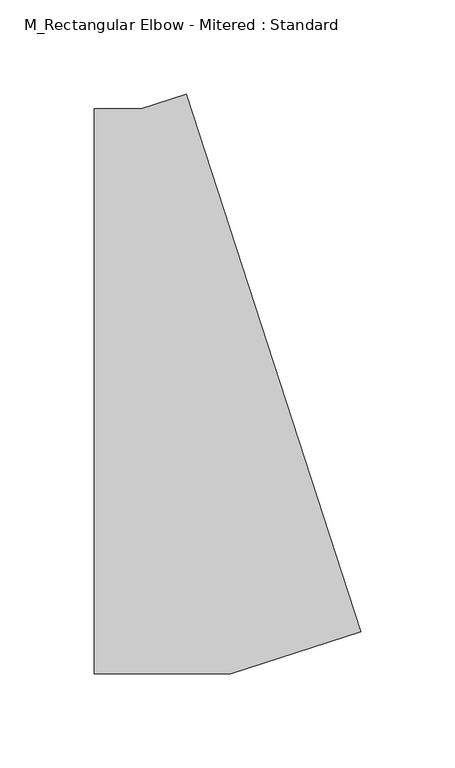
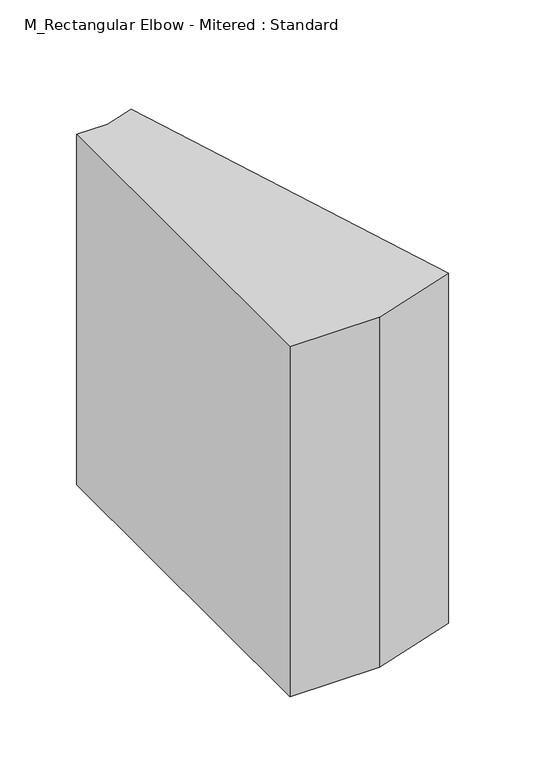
"""IFC4 building model written with IfcOpenShell, lengths in millimetres: duct fitting geometry, M_Rectangular Elbow - Mitered : Standard."""

from ifc_helpers import new_model, si_unit, frame, origin, place, context, project, spatial, polyline, outline, extrude, source, transform, mapped, element, save


def m_rectangular_elbow_mitered_standard_74561131(model_context):
    return source(origin(), model_context, "Body", "SweptSolid", [
        extrude(outline(polyline([(-48.757666, -150.0), (-48.757666, 150.0), (-23.757666, 150.0), (0.0187469, 157.7254249), (92.7238452, -127.59153), (23.757666, -150.0), (-48.757666, -150.0)])), frame((0.0, 0.0, -150.0), z_axis=(0.0, 0.0, 1.0), x_axis=(1.0, 0.0, 0.0)), (0.0, 0.0, 1.0), 300.0),
        extrude(outline(polyline([(-48.757666, -150.0), (-48.757666, 150.0), (-23.757666, 150.0), (0.0187469, 157.7254249), (92.7238452, -127.59153), (23.757666, -150.0), (-48.757666, -150.0)])), frame((0.0, 0.0, -150.0), z_axis=(0.0, 0.0, 1.0), x_axis=(1.0, 0.0, 0.0)), (0.0, 0.0, 1.0), 300.0),
        extrude(outline(polyline([(-48.757666, -150.0), (-48.757666, 150.0), (-23.757666, 150.0), (0.0187469, 157.7254249), (92.7238452, -127.59153), (23.757666, -150.0), (-48.757666, -150.0)])), frame((0.0, 0.0, -150.0), z_axis=(0.0, 0.0, 1.0), x_axis=(1.0, 0.0, 0.0)), (0.0, 0.0, 1.0), 300.0),
    ])


if __name__ == "__main__":
    model = new_model("IFC4")
    model_context = context("Model", 3, world=origin())
    ifc_project = project(units=[si_unit("LENGTHUNIT", "METRE", prefix="MILLI")], contexts=[model_context])
    site = spatial("IfcSite", under=ifc_project)
    building = spatial("IfcBuilding", under=site)
    placement = place(None, origin())
    m_rectangular_elbow_mitered_standard_shape = m_rectangular_elbow_mitered_standard_74561131(model_context)
    element("IfcDuctFitting", 1, ObjectType="M_Rectangular Elbow - Mitered : Standard", at=placement, inside=building, context=model_context, shape_type="MappedRepresentation", body=[
        mapped(m_rectangular_elbow_mitered_standard_shape, transform((0.0, 0.0, 0.0), x_axis=(1.0, 0.0, 0.0), y_axis=(0.0, 1.0, 0.0), z_axis=(0.0, 0.0, 1.0))),
    ])
    save(model, "model.ifc")
